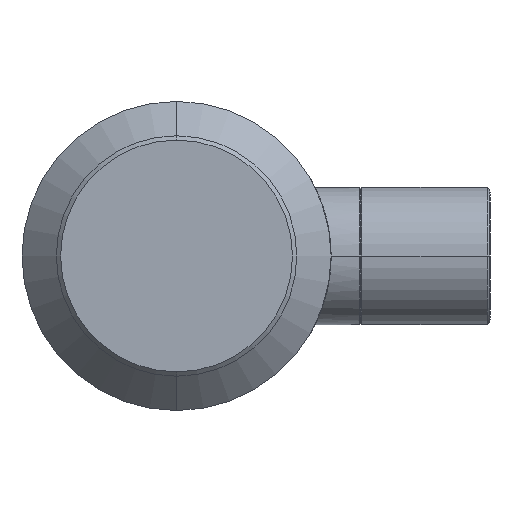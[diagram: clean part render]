
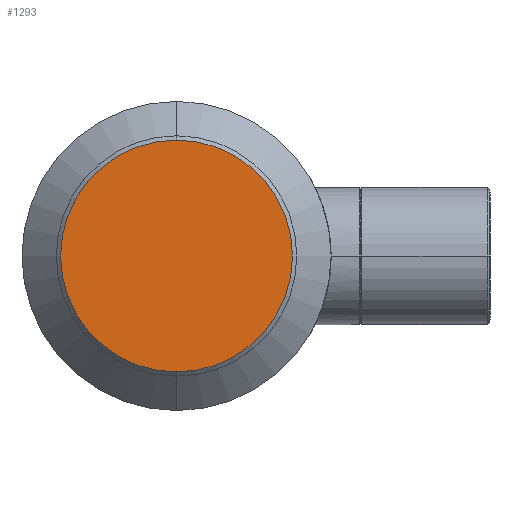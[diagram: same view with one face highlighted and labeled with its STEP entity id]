
A CAD part, left-side view. The second image highlights one B-rep face of the part: STEP entity #1293.
In plain terms, the highlighted planar face has unit normal (-1, 0, 0).
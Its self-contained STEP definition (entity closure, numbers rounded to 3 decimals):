
#81 = DIRECTION ( 'NONE',  ( 0., 0., 1. ) ) ;
#130 = ORIENTED_EDGE ( 'NONE', *, *, #1679, .T. ) ;
#139 = CIRCLE ( 'NONE', #461, 13.5 ) ;
#141 = EDGE_CURVE ( 'NONE', #282, #1088, #139, .T. ) ;
#154 = CARTESIAN_POINT ( 'NONE',  ( 0., 0., 13.5 ) ) ;
#282 = VERTEX_POINT ( 'NONE', #1836 ) ;
#461 = AXIS2_PLACEMENT_3D ( 'NONE', #1559, #509, #1398 ) ;
#509 = DIRECTION ( 'NONE',  ( -1., 0., 0. ) ) ;
#517 = DIRECTION ( 'NONE',  ( 0., 0., -1. ) ) ;
#814 = PLANE ( 'NONE',  #1756 ) ;
#1010 = DIRECTION ( 'NONE',  ( -1., 0., 0. ) ) ;
#1088 = VERTEX_POINT ( 'NONE', #154 ) ;
#1170 = DIRECTION ( 'NONE',  ( 1., 0., 0. ) ) ;
#1293 = ADVANCED_FACE ( 'NONE', ( #1425 ), #814, .F. ) ;
#1341 = CIRCLE ( 'NONE', #1694, 13.5 ) ;
#1395 = CARTESIAN_POINT ( 'NONE',  ( 0., 0., 0. ) ) ;
#1398 = DIRECTION ( 'NONE',  ( 0., 0., 1. ) ) ;
#1425 = FACE_OUTER_BOUND ( 'NONE', #1752, .T. ) ;
#1555 = ORIENTED_EDGE ( 'NONE', *, *, #141, .T. ) ;
#1559 = CARTESIAN_POINT ( 'NONE',  ( 0., 0., 0. ) ) ;
#1679 = EDGE_CURVE ( 'NONE', #1088, #282, #1341, .T. ) ;
#1694 = AXIS2_PLACEMENT_3D ( 'NONE', #1930, #1010, #81 ) ;
#1752 = EDGE_LOOP ( 'NONE', ( #1555, #130 ) ) ;
#1756 = AXIS2_PLACEMENT_3D ( 'NONE', #1395, #1170, #517 ) ;
#1836 = CARTESIAN_POINT ( 'NONE',  ( 0., 0., -13.5 ) ) ;
#1930 = CARTESIAN_POINT ( 'NONE',  ( 0., 0., 0. ) ) ;
